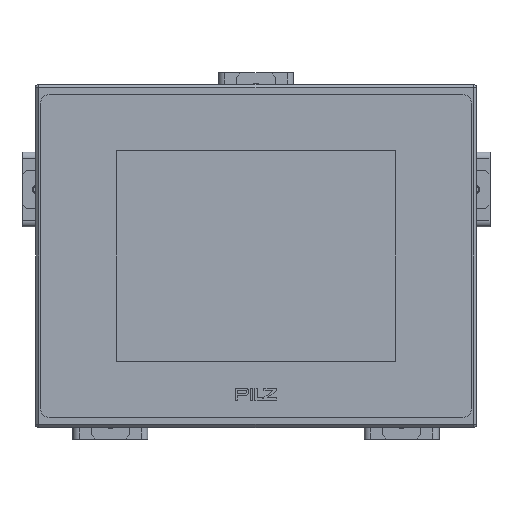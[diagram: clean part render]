
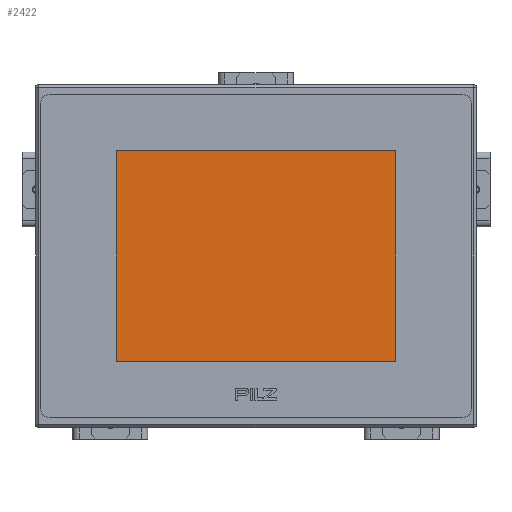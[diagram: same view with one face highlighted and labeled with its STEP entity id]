
A CAD part, front view. The second image highlights one B-rep face of the part: STEP entity #2422.
In plain terms, the highlighted planar face has unit normal (0, -1, 0).
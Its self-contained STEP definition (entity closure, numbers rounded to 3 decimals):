
#815=DIRECTION('',(0.,0.,-1.));
#816=VECTOR('',#815,101.);
#817=CARTESIAN_POINT('',(-67.25,-6.,50.5));
#818=LINE('',#817,#816);
#822=DIRECTION('',(-1.,0.,0.));
#823=VECTOR('',#822,134.5);
#824=CARTESIAN_POINT('',(67.25,-6.,50.5));
#825=LINE('',#824,#823);
#829=DIRECTION('',(0.,0.,1.));
#830=VECTOR('',#829,101.);
#831=CARTESIAN_POINT('',(67.25,-6.,-50.5));
#832=LINE('',#831,#830);
#836=DIRECTION('',(1.,0.,0.));
#837=VECTOR('',#836,134.5);
#838=CARTESIAN_POINT('',(-67.25,-6.,-50.5));
#839=LINE('',#838,#837);
#1645=CARTESIAN_POINT('',(-67.25,-6.,50.5));
#1646=CARTESIAN_POINT('',(-67.25,-6.,-50.5));
#1647=VERTEX_POINT('',#1645);
#1648=VERTEX_POINT('',#1646);
#1649=CARTESIAN_POINT('',(67.25,-6.,-50.5));
#1650=VERTEX_POINT('',#1649);
#1651=CARTESIAN_POINT('',(67.25,-6.,50.5));
#1652=VERTEX_POINT('',#1651);
#2411=CARTESIAN_POINT('',(0.,-6.,0.));
#2412=DIRECTION('',(0.,-1.,0.));
#2413=DIRECTION('',(1.,0.,0.));
#2414=AXIS2_PLACEMENT_3D('',#2411,#2412,#2413);
#2415=PLANE('',#2414);
#2416=ORIENTED_EDGE('',*,*,#2363,.F.);
#2417=ORIENTED_EDGE('',*,*,#2378,.F.);
#2418=ORIENTED_EDGE('',*,*,#2392,.F.);
#2419=ORIENTED_EDGE('',*,*,#2405,.F.);
#2420=EDGE_LOOP('',(#2416,#2417,#2418,#2419));
#2421=FACE_OUTER_BOUND('',#2420,.F.);
#2363=EDGE_CURVE('',#1647,#1648,#818,.T.);
#2378=EDGE_CURVE('',#1652,#1647,#825,.T.);
#2392=EDGE_CURVE('',#1650,#1652,#832,.T.);
#2405=EDGE_CURVE('',#1648,#1650,#839,.T.);
#2422=ADVANCED_FACE('',(#2421),#2415,.T.);
